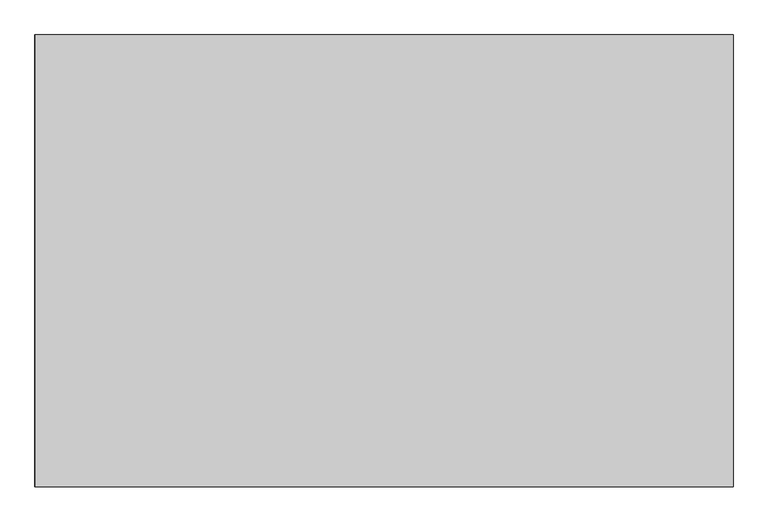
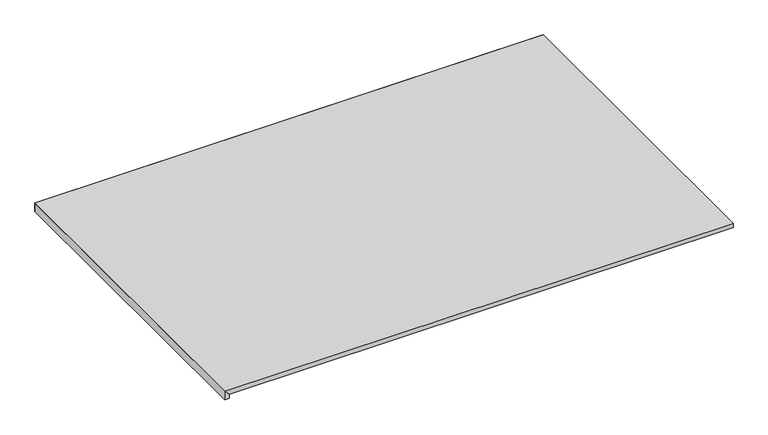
"""IFC4 building model written with IfcOpenShell, lengths in millimetres: proxy geometry, FOUNDATION^PO 2_WALL HUNG WORK WALL-PARTS SOLID."""

from ifc_helpers import new_model, si_unit, origin, place, context, project, spatial, faceted_brep, source, transform, mapped, element, save


def generic_models_7ffa99d4(model_context):
    return source(origin(), model_context, "Body", "Brep", [
        faceted_brep([(19.05, 1377.95, -38.1), (19.05, 1377.95, -19.05), (19.05, 0.0, -19.05), (19.05, 0.0, -38.1), (0.0, 1397.0, 0.0), (0.0, 0.0, 0.0), (0.0, 1397.0, -38.1), (0.0, 0.0, -38.1)], [[[0, 1, 2, 3]], [[1, 4, 5, 2]], [[4, 6, 7, 5]], [[6, 0, 3, 7]], [[3, 2, 5, 7]], [[4, 1, 0, 6]]]),
        faceted_brep([(2159.0, 0.0, -19.05), (2159.0, 0.0, 0.0), (0.0, 0.0, 0.0), (19.05, 0.0, -19.05), (2159.0, 1377.95, -19.05), (2159.0, 1397.0, 0.0), (0.0, 1397.0, 0.0), (19.05, 1377.95, -19.05)], [[[0, 1, 2, 3]], [[1, 0, 4, 5]], [[2, 1, 5, 6]], [[0, 3, 7, 4]], [[6, 7, 3, 2]], [[7, 6, 5, 4]]]),
        faceted_brep([(0.0, 1397.0, -38.1), (19.05, 1377.95, -38.1), (19.05, 1377.95, -19.05), (0.0, 1397.0, 0.0), (2159.0, 1377.95, -19.05), (2159.0, 1397.0, 0.0), (2159.0, 1377.95, -38.1), (2159.0, 1397.0, -38.1)], [[[0, 1, 2, 3]], [[3, 2, 4, 5]], [[2, 1, 6, 4]], [[0, 3, 5, 7]], [[1, 0, 7, 6]], [[6, 7, 5, 4]]]),
    ])


if __name__ == "__main__":
    model = new_model("IFC4")
    model_context = context("Model", 3, world=origin())
    ifc_project = project(units=[si_unit("LENGTHUNIT", "METRE", prefix="MILLI")], contexts=[model_context])
    site = spatial("IfcSite", under=ifc_project)
    building = spatial("IfcBuilding", under=site)
    placement = place(None, origin())
    generic_models_shape = generic_models_7ffa99d4(model_context)
    element("IfcBuildingElementProxy", 1, Name="FOUNDATION^PO 2_WALL HUNG WORK WALL-PARTS SOLID", ObjectType="FOUNDATION^PO 2_WALL HUNG WORK WALL-PARTS SOLID", at=placement, inside=building, context=model_context, shape_type="MappedRepresentation", body=[
        mapped(generic_models_shape, transform((0.0, 0.0, 0.0), x_axis=(1.0, 0.0, 0.0), y_axis=(0.0, 1.0, 0.0), z_axis=(0.0, 0.0, 1.0))),
    ])
    save(model, "model.ifc")
